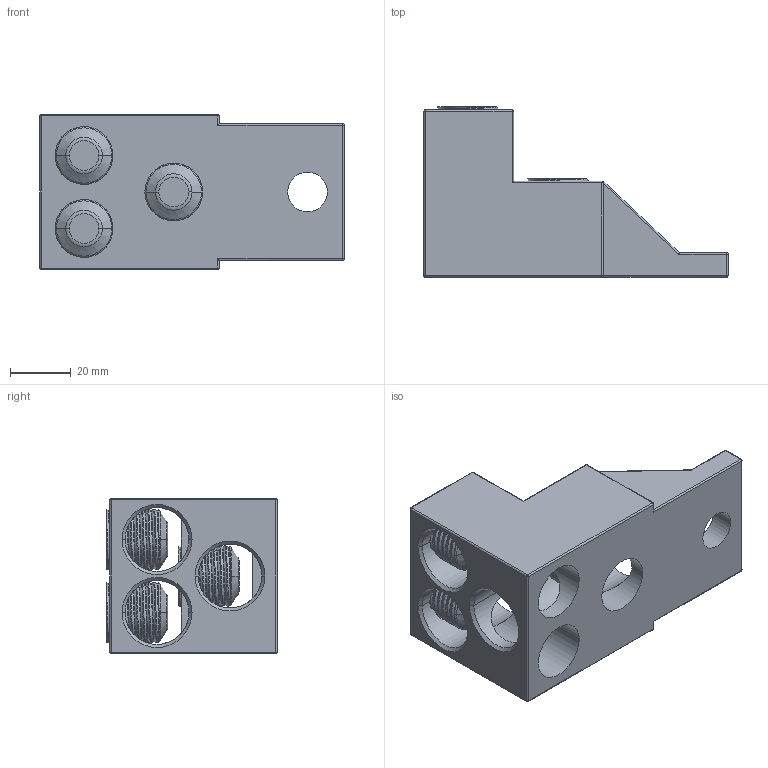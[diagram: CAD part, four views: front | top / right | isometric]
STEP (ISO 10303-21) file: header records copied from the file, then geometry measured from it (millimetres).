
FILE_DESCRIPTION((''),'2;1');
FILE_NAME('U8_CAGE_TERMINAL_ASSY_ASM','2018-06-04T',('HHI'),(''),'PRO/ENGINEER BY PARAMETRIC TECHNOLOGY CORPORATION, 2012453','PRO/ENGINEER BY PARAMETRIC TECHNOLOGY CORPORATION, 2012453','');
FILE_SCHEMA(('CONFIG_CONTROL_DESIGN'));
Length unit declared in the file: millimetre
Products named in the file (4): CAGE_TERMINAL_80E_AF0; U8_80GP_CAGE_TERMINAL_ASM; UPPER_BOLT_48D; U8_CAGE_TERMINAL_ASSY_ASM
Assembly tree (5 placements, depth 3):
  U8_CAGE_TERMINAL_ASSY_ASM
    U8_80GP_CAGE_TERMINAL_ASM
      CAGE_TERMINAL_80E_AF0
    UPPER_BOLT_48D  x3
Bounding box: 100 x 56 x 51 mm (x, y, z)
Volume: 97580.8 mm3; surface area: 34460.2 mm2
Topology: 4 solids, 4 shells, 275 faces, 681 edges, 396 vertices
Faces by surface type: cylinder 134, plane 48, bspline 45, cone 18, torus 18, sphere 12
Entity records: 8739 total; most frequent: CARTESIAN_POINT 5251, ORIENTED_EDGE 742, DIRECTION 651, EDGE_CURVE 371, AXIS2_PLACEMENT_3D 246, VERTEX_POINT 216, EDGE_LOOP 167, VECTOR 159
